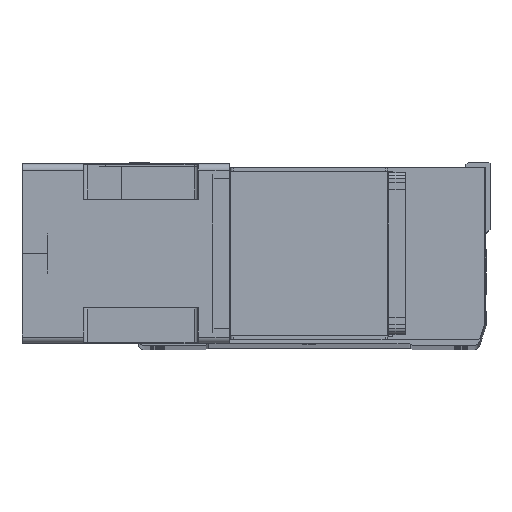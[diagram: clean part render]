
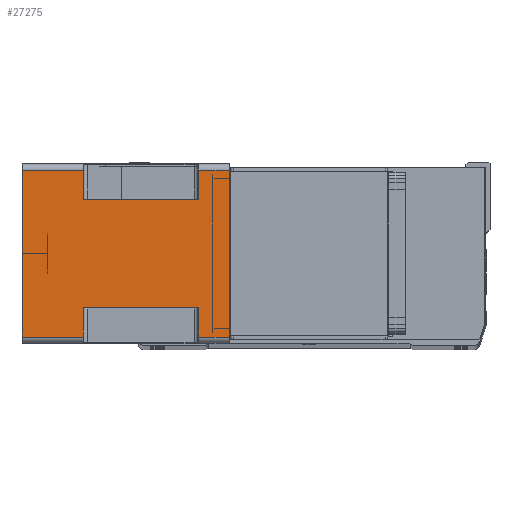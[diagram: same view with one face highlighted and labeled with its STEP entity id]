
A CAD part, top view. The second image highlights one B-rep face of the part: STEP entity #27275.
In plain terms, the highlighted planar face has unit normal (0, 0, 1) as drawn and (-1, 0, 0) by its records, which use the part's own axes.
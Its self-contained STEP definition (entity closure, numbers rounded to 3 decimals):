
#3 = VECTOR ( 'NONE', #16234, 1000. ) ;
#1087 = VECTOR ( 'NONE', #22915, 1000. ) ;
#1949 = EDGE_CURVE ( 'NONE', #26706, #29177, #40592, .T. ) ;
#1996 = VECTOR ( 'NONE', #28467, 1000. ) ;
#2148 = VECTOR ( 'NONE', #35022, 1000. ) ;
#2837 = ORIENTED_EDGE ( 'NONE', *, *, #40771, .T. ) ;
#3634 = LINE ( 'NONE', #24920, #1996 ) ;
#4179 = VECTOR ( 'NONE', #10079, 1000. ) ;
#4859 = EDGE_CURVE ( 'NONE', #8105, #13023, #3634, .T. ) ;
#5255 = VECTOR ( 'NONE', #15376, 1000. ) ;
#5731 = VECTOR ( 'NONE', #12450, 1000. ) ;
#7783 = LINE ( 'NONE', #13217, #9993 ) ;
#8105 = VERTEX_POINT ( 'NONE', #31855 ) ;
#8532 = EDGE_LOOP ( 'NONE', ( #19295, #12901, #18853, #24706, #2837, #24094, #36946, #43135, #18522, #40912, #23667, #13399 ) ) ;
#8537 = CARTESIAN_POINT ( 'NONE',  ( -71., -66., 0. ) ) ;
#8546 = VERTEX_POINT ( 'NONE', #43435 ) ;
#8666 = CARTESIAN_POINT ( 'NONE',  ( -71., 66., -24.5 ) ) ;
#9108 = DIRECTION ( 'NONE',  ( 0., -1., 0. ) ) ;
#9318 = LINE ( 'NONE', #44651, #3 ) ;
#9993 = VECTOR ( 'NONE', #9108, 1000. ) ;
#10079 = DIRECTION ( 'NONE',  ( 0., -1., 0. ) ) ;
#12450 = DIRECTION ( 'NONE',  ( 0., 0., 1. ) ) ;
#12564 = LINE ( 'NONE', #43768, #1087 ) ;
#12901 = ORIENTED_EDGE ( 'NONE', *, *, #4859, .T. ) ;
#13023 = VERTEX_POINT ( 'NONE', #13256 ) ;
#13217 = CARTESIAN_POINT ( 'NONE',  ( -71., 43., -24.5 ) ) ;
#13256 = CARTESIAN_POINT ( 'NONE',  ( -71., -43., -115.5 ) ) ;
#13321 = EDGE_CURVE ( 'NONE', #16693, #8105, #25610, .T. ) ;
#13399 = ORIENTED_EDGE ( 'NONE', *, *, #42238, .T. ) ;
#13476 = LINE ( 'NONE', #45230, #4179 ) ;
#13660 = CARTESIAN_POINT ( 'NONE',  ( -71., -43., -164. ) ) ;
#13812 = CARTESIAN_POINT ( 'NONE',  ( -71., 43., -164. ) ) ;
#15376 = DIRECTION ( 'NONE',  ( 0., 0., 1. ) ) ;
#15530 = VERTEX_POINT ( 'NONE', #8537 ) ;
#16124 = LINE ( 'NONE', #13660, #33742 ) ;
#16234 = DIRECTION ( 'NONE',  ( 0., 0., 1. ) ) ;
#16580 = EDGE_CURVE ( 'NONE', #42666, #8546, #9318, .T. ) ;
#16693 = VERTEX_POINT ( 'NONE', #41555 ) ;
#17040 = VERTEX_POINT ( 'NONE', #8666 ) ;
#17888 = CARTESIAN_POINT ( 'NONE',  ( -71., -66., -164. ) ) ;
#18206 = EDGE_CURVE ( 'NONE', #43986, #25023, #13476, .T. ) ;
#18522 = ORIENTED_EDGE ( 'NONE', *, *, #1949, .F. ) ;
#18853 = ORIENTED_EDGE ( 'NONE', *, *, #41026, .F. ) ;
#19295 = ORIENTED_EDGE ( 'NONE', *, *, #13321, .T. ) ;
#19500 = LINE ( 'NONE', #43912, #5731 ) ;
#20422 = DIRECTION ( 'NONE',  ( 0., -1., 0. ) ) ;
#21272 = DIRECTION ( 'NONE',  ( -1., 0., 0. ) ) ;
#21427 = DIRECTION ( 'NONE',  ( 0., -1., 0. ) ) ;
#22574 = VECTOR ( 'NONE', #36513, 1000. ) ;
#22915 = DIRECTION ( 'NONE',  ( 0., -1., 0. ) ) ;
#23314 = CARTESIAN_POINT ( 'NONE',  ( -71., 66., -164. ) ) ;
#23667 = ORIENTED_EDGE ( 'NONE', *, *, #16580, .F. ) ;
#23903 = FACE_OUTER_BOUND ( 'NONE', #8532, .T. ) ;
#24094 = ORIENTED_EDGE ( 'NONE', *, *, #24476, .F. ) ;
#24476 = EDGE_CURVE ( 'NONE', #38691, #15530, #42435, .T. ) ;
#24584 = CARTESIAN_POINT ( 'NONE',  ( -71., 66., -164. ) ) ;
#24706 = ORIENTED_EDGE ( 'NONE', *, *, #18206, .T. ) ;
#24920 = CARTESIAN_POINT ( 'NONE',  ( -71., -43., -115.5 ) ) ;
#24999 = VECTOR ( 'NONE', #38419, 1000. ) ;
#25023 = VERTEX_POINT ( 'NONE', #27456 ) ;
#25610 = LINE ( 'NONE', #36409, #5255 ) ;
#26706 = VERTEX_POINT ( 'NONE', #38677 ) ;
#27275 = ADVANCED_FACE ( 'NONE', ( #23903 ), #35098, .T. ) ;
#27456 = CARTESIAN_POINT ( 'NONE',  ( -71., -66., -24.5 ) ) ;
#27549 = LINE ( 'NONE', #24584, #22574 ) ;
#27826 = EDGE_CURVE ( 'NONE', #26706, #8546, #35423, .T. ) ;
#28317 = CARTESIAN_POINT ( 'NONE',  ( -71., 66., 0. ) ) ;
#28445 = CARTESIAN_POINT ( 'NONE',  ( -71., -43., -24.5 ) ) ;
#28467 = DIRECTION ( 'NONE',  ( 0., 1., 0. ) ) ;
#29177 = VERTEX_POINT ( 'NONE', #36673 ) ;
#29627 = EDGE_CURVE ( 'NONE', #17040, #29177, #7783, .T. ) ;
#29954 = EDGE_CURVE ( 'NONE', #17040, #38691, #27549, .T. ) ;
#31855 = CARTESIAN_POINT ( 'NONE',  ( -71., -66., -115.5 ) ) ;
#33742 = VECTOR ( 'NONE', #38543, 1000. ) ;
#34247 = CARTESIAN_POINT ( 'NONE',  ( -71., -66., 0. ) ) ;
#35022 = DIRECTION ( 'NONE',  ( 0., 0., 1. ) ) ;
#35098 = PLANE ( 'NONE',  #41152 ) ;
#35423 = LINE ( 'NONE', #38104, #24999 ) ;
#36409 = CARTESIAN_POINT ( 'NONE',  ( -71., -66., -164. ) ) ;
#36513 = DIRECTION ( 'NONE',  ( 0., 0., 1. ) ) ;
#36673 = CARTESIAN_POINT ( 'NONE',  ( -71., 43., -24.5 ) ) ;
#36946 = ORIENTED_EDGE ( 'NONE', *, *, #29954, .F. ) ;
#38104 = CARTESIAN_POINT ( 'NONE',  ( -71., -66., -115.5 ) ) ;
#38419 = DIRECTION ( 'NONE',  ( 0., 1., 0. ) ) ;
#38543 = DIRECTION ( 'NONE',  ( 0., 0., -1. ) ) ;
#38677 = CARTESIAN_POINT ( 'NONE',  ( -71., 43., -115.5 ) ) ;
#38691 = VERTEX_POINT ( 'NONE', #28317 ) ;
#40592 = LINE ( 'NONE', #13812, #2148 ) ;
#40771 = EDGE_CURVE ( 'NONE', #25023, #15530, #19500, .T. ) ;
#40912 = ORIENTED_EDGE ( 'NONE', *, *, #27826, .T. ) ;
#41026 = EDGE_CURVE ( 'NONE', #43986, #13023, #16124, .T. ) ;
#41152 = AXIS2_PLACEMENT_3D ( 'NONE', #17888, #21272, #21427 ) ;
#41555 = CARTESIAN_POINT ( 'NONE',  ( -71., -66., -164. ) ) ;
#42238 = EDGE_CURVE ( 'NONE', #42666, #16693, #12564, .T. ) ;
#42435 = LINE ( 'NONE', #34247, #42958 ) ;
#42666 = VERTEX_POINT ( 'NONE', #23314 ) ;
#42958 = VECTOR ( 'NONE', #20422, 1000. ) ;
#43135 = ORIENTED_EDGE ( 'NONE', *, *, #29627, .T. ) ;
#43435 = CARTESIAN_POINT ( 'NONE',  ( -71., 66., -115.5 ) ) ;
#43768 = CARTESIAN_POINT ( 'NONE',  ( -71., -66., -164. ) ) ;
#43912 = CARTESIAN_POINT ( 'NONE',  ( -71., -66., -164. ) ) ;
#43986 = VERTEX_POINT ( 'NONE', #28445 ) ;
#44651 = CARTESIAN_POINT ( 'NONE',  ( -71., 66., -164. ) ) ;
#45230 = CARTESIAN_POINT ( 'NONE',  ( -71., -66., -24.5 ) ) ;
